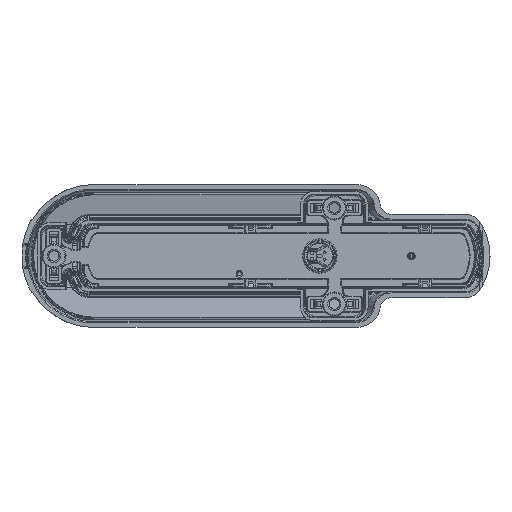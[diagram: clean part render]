
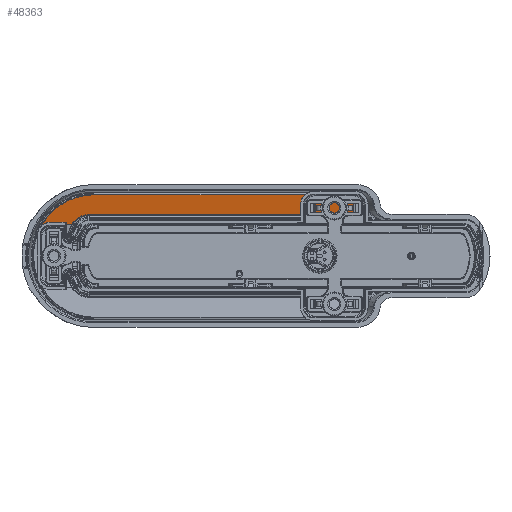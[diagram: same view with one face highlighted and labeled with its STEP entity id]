
A CAD part, front view. The second image highlights one B-rep face of the part: STEP entity #48363.
In plain terms, the highlighted planar face has unit normal (0, 0.983, 0.184).
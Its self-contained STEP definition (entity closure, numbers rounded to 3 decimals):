
#48264=AXIS2_PLACEMENT_3D('Plane Axis2P3D',#48261,#48262,#48263) ;
#48261=CARTESIAN_POINT('Axis2P3D Location',(0.,4.057,48.736)) ;
#48267=CARTESIAN_POINT('Control Point',(-88.119,8.054,27.383)) ;
#48268=CARTESIAN_POINT('Control Point',(-93.708,8.054,27.383)) ;
#48269=CARTESIAN_POINT('Control Point',(-99.335,8.327,25.926)) ;
#48270=CARTESIAN_POINT('Control Point',(-104.441,8.883,22.955)) ;
#48271=CARTESIAN_POINT('Control Point',(-108.478,9.65,18.855)) ;
#48272=CARTESIAN_POINT('Control Point',(-111.272,10.543,14.086)) ;
#48273=CARTESIAN_POINT('Vertex',(-111.272,10.543,14.086)) ;
#48275=CARTESIAN_POINT('Vertex',(-88.119,8.054,27.383)) ;
#48278=CARTESIAN_POINT('Line Origine',(-40.31,8.054,27.383)) ;
#48282=CARTESIAN_POINT('Vertex',(23.875,8.054,27.383)) ;
#48286=CARTESIAN_POINT('Control Point',(30.063,9.178,21.379)) ;
#48287=CARTESIAN_POINT('Control Point',(30.159,9.011,22.269)) ;
#48288=CARTESIAN_POINT('Control Point',(30.077,8.843,23.167)) ;
#48289=CARTESIAN_POINT('Control Point',(29.799,8.681,24.032)) ;
#48290=CARTESIAN_POINT('Control Point',(28.795,8.369,25.702)) ;
#48291=CARTESIAN_POINT('Control Point',(27.111,8.161,26.81)) ;
#48292=CARTESIAN_POINT('Control Point',(26.073,8.089,27.196)) ;
#48293=CARTESIAN_POINT('Control Point',(24.979,8.054,27.383)) ;
#48294=CARTESIAN_POINT('Control Point',(23.875,8.054,27.383)) ;
#48295=CARTESIAN_POINT('Vertex',(30.063,9.178,21.379)) ;
#48299=CARTESIAN_POINT('Control Point',(30.063,9.178,21.379)) ;
#48300=CARTESIAN_POINT('Control Point',(29.783,9.662,18.792)) ;
#48301=CARTESIAN_POINT('Vertex',(29.783,9.662,18.792)) ;
#48305=CARTESIAN_POINT('Control Point',(29.586,9.695,18.613)) ;
#48306=CARTESIAN_POINT('Control Point',(29.659,9.695,18.613)) ;
#48307=CARTESIAN_POINT('Control Point',(29.732,9.689,18.65)) ;
#48308=CARTESIAN_POINT('Control Point',(29.775,9.676,18.719)) ;
#48309=CARTESIAN_POINT('Control Point',(29.783,9.662,18.792)) ;
#48310=CARTESIAN_POINT('Vertex',(29.586,9.695,18.613)) ;
#48313=CARTESIAN_POINT('Line Origine',(-40.31,9.695,18.613)) ;
#48317=CARTESIAN_POINT('Vertex',(-90.307,9.695,18.613)) ;
#48321=CARTESIAN_POINT('Control Point',(-90.307,9.695,18.613)) ;
#48322=CARTESIAN_POINT('Control Point',(-92.123,9.695,18.613)) ;
#48323=CARTESIAN_POINT('Control Point',(-93.94,9.784,18.141)) ;
#48324=CARTESIAN_POINT('Control Point',(-95.586,9.961,17.192)) ;
#48325=CARTESIAN_POINT('Control Point',(-96.901,10.208,15.873)) ;
#48326=CARTESIAN_POINT('Control Point',(-97.814,10.498,14.324)) ;
#48327=CARTESIAN_POINT('Vertex',(-97.814,10.498,14.324)) ;
#48331=CARTESIAN_POINT('Control Point',(-97.814,10.498,14.324)) ;
#48332=CARTESIAN_POINT('Control Point',(-97.823,10.501,14.309)) ;
#48333=CARTESIAN_POINT('Control Point',(-97.831,10.504,14.295)) ;
#48334=CARTESIAN_POINT('Control Point',(-97.84,10.506,14.281)) ;
#48335=CARTESIAN_POINT('Vertex',(-97.84,10.506,14.281)) ;
#48339=CARTESIAN_POINT('Control Point',(-97.953,10.543,14.086)) ;
#48340=CARTESIAN_POINT('Control Point',(-97.915,10.531,14.151)) ;
#48341=CARTESIAN_POINT('Control Point',(-97.878,10.518,14.216)) ;
#48342=CARTESIAN_POINT('Control Point',(-97.84,10.506,14.281)) ;
#48343=CARTESIAN_POINT('Vertex',(-97.953,10.543,14.086)) ;
#48346=CARTESIAN_POINT('Line Origine',(-40.31,10.543,14.086)) ;
#48262=DIRECTION('Axis2P3D Direction',(0.,-0.983,-0.184)) ;
#48263=DIRECTION('Axis2P3D XDirection',(0.,0.184,-0.983)) ;
#48279=DIRECTION('Vector Direction',(1.,0.,0.)) ;
#48314=DIRECTION('Vector Direction',(1.,0.,0.)) ;
#48347=DIRECTION('Vector Direction',(1.,0.,0.)) ;
#48280=VECTOR('Line Direction',#48279,1.) ;
#48315=VECTOR('Line Direction',#48314,1.) ;
#48348=VECTOR('Line Direction',#48347,1.) ;
#48352=ORIENTED_EDGE('',*,*,#48277,.T.) ;
#48353=ORIENTED_EDGE('',*,*,#48284,.T.) ;
#48354=ORIENTED_EDGE('',*,*,#48297,.T.) ;
#48355=ORIENTED_EDGE('',*,*,#48303,.T.) ;
#48356=ORIENTED_EDGE('',*,*,#48312,.T.) ;
#48357=ORIENTED_EDGE('',*,*,#48319,.T.) ;
#48358=ORIENTED_EDGE('',*,*,#48329,.T.) ;
#48359=ORIENTED_EDGE('',*,*,#48337,.T.) ;
#48360=ORIENTED_EDGE('',*,*,#48345,.T.) ;
#48361=ORIENTED_EDGE('',*,*,#48350,.F.) ;
#48363=ADVANCED_FACE('Surface.39',(#48362),#48265,.F.) ;
#48266=B_SPLINE_CURVE_WITH_KNOTS('',5,(#48267,#48268,#48269,#48270,#48271,#48272),.UNSPECIFIED.,.F.,.U.,(6,6),(17.899,62.724),.UNSPECIFIED.) ;
#48285=B_SPLINE_CURVE_WITH_KNOTS('',5,(#48286,#48287,#48288,#48289,#48290,#48291,#48292,#48293,#48294),.UNSPECIFIED.,.F.,.U.,(6,3,6),(8.519,18.313,29.703),.UNSPECIFIED.) ;
#48298=B_SPLINE_CURVE_WITH_KNOTS('',1,(#48299,#48300),.UNSPECIFIED.,.F.,.U.,(2,2),(-0.245,2.402),.UNSPECIFIED.) ;
#48304=B_SPLINE_CURVE_WITH_KNOTS('',4,(#48305,#48306,#48307,#48308,#48309),.UNSPECIFIED.,.F.,.U.,(5,5),(1.306,2.091),.UNSPECIFIED.) ;
#48320=B_SPLINE_CURVE_WITH_KNOTS('',5,(#48321,#48322,#48323,#48324,#48325,#48326),.UNSPECIFIED.,.F.,.U.,(6,6),(6.626,23.197),.UNSPECIFIED.) ;
#48330=B_SPLINE_CURVE_WITH_KNOTS('',3,(#48331,#48332,#48333,#48334),.UNSPECIFIED.,.F.,.U.,(4,4),(0.038,0.133),.UNSPECIFIED.) ;
#48338=B_SPLINE_CURVE_WITH_KNOTS('',3,(#48339,#48340,#48341,#48342),.UNSPECIFIED.,.F.,.U.,(4,4),(14.721,15.165),.UNSPECIFIED.) ;
#48277=EDGE_CURVE('',#48274,#48276,#48266,.F.) ;
#48284=EDGE_CURVE('',#48276,#48283,#48281,.T.) ;
#48297=EDGE_CURVE('',#48283,#48296,#48285,.F.) ;
#48303=EDGE_CURVE('',#48296,#48302,#48298,.T.) ;
#48312=EDGE_CURVE('',#48302,#48311,#48304,.F.) ;
#48319=EDGE_CURVE('',#48311,#48318,#48316,.F.) ;
#48329=EDGE_CURVE('',#48318,#48328,#48320,.T.) ;
#48337=EDGE_CURVE('',#48328,#48336,#48330,.T.) ;
#48345=EDGE_CURVE('',#48336,#48344,#48338,.F.) ;
#48350=EDGE_CURVE('',#48274,#48344,#48349,.T.) ;
#48351=EDGE_LOOP('',(#48352,#48353,#48354,#48355,#48356,#48357,#48358,#48359,#48360,#48361)) ;
#48362=FACE_OUTER_BOUND('',#48351,.T.) ;
#48281=LINE('Line',#48278,#48280) ;
#48316=LINE('Line',#48313,#48315) ;
#48349=LINE('Line',#48346,#48348) ;
#48265=PLANE('',#48264) ;
#48274=VERTEX_POINT('',#48273) ;
#48276=VERTEX_POINT('',#48275) ;
#48283=VERTEX_POINT('',#48282) ;
#48296=VERTEX_POINT('',#48295) ;
#48302=VERTEX_POINT('',#48301) ;
#48311=VERTEX_POINT('',#48310) ;
#48318=VERTEX_POINT('',#48317) ;
#48328=VERTEX_POINT('',#48327) ;
#48336=VERTEX_POINT('',#48335) ;
#48344=VERTEX_POINT('',#48343) ;
